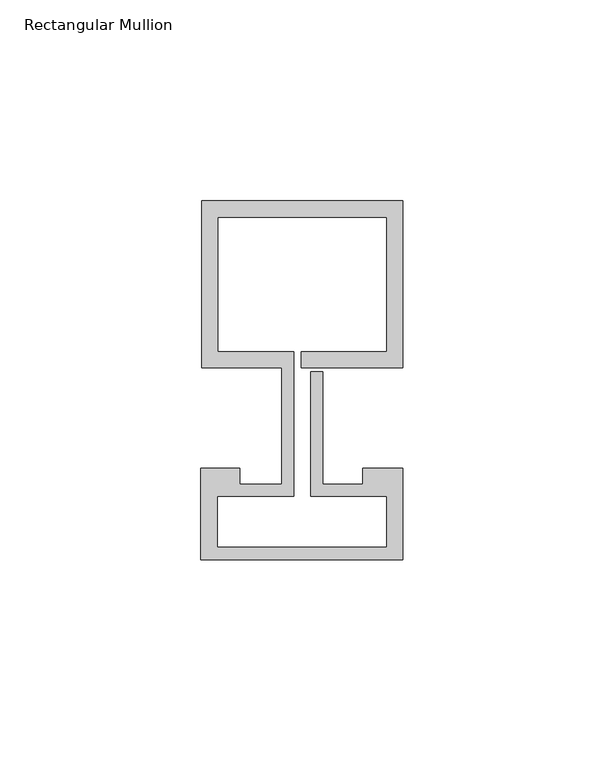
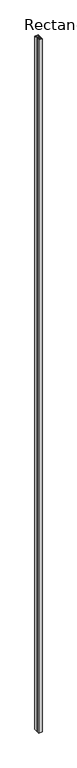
"""IFC4 building model written with IfcOpenShell, lengths in millimetres: member geometry, Rectangular Mullion : Reynaers_CW-50_Mullion-Transom_Vertical_41.5mm_Facecap-02C."""

from ifc_helpers import new_model, si_unit, frame, origin, place, context, project, spatial, polyline, outline, extrude, source, transform, mapped, element, save


def rectangular_mullion_60bf5739(model_context):
    return source(origin(), model_context, "Body", "SweptSolid", [
        extrude(outline(polyline([(-24.8004059, 54.0), (25.1995941, 54.0), (25.1995941, 12.5), (0.0, 12.5), (0.0, 16.5), (21.1995941, 16.5), (21.1995941, 50.0), (-20.8004059, 50.0), (-20.8004059, 16.5), (-1.9004059, 16.5), (-1.9004059, -19.5), (-20.994845, -19.5), (-20.994845, -32.2191338), (21.1995941, -32.2191338), (21.1995941, -19.5), (2.2995941, -19.5), (2.2995941, 11.5), (5.2995941, 11.5), (5.2995941, -16.5), (15.2996495, -16.5), (15.2996495, -12.5), (25.1995941, -12.5), (25.1995941, -35.3), (-24.994845, -35.3), (-24.994845, -12.5), (-15.2996495, -12.5), (-15.2996495, -16.5), (-4.9004059, -16.5), (-4.9004059, 12.5), (-24.8004059, 12.5), (-24.8004059, 54.0)])), frame((0.0, 0.0, -10400.0), z_axis=(0.0, 0.0, 1.0), x_axis=(1.0, 0.0, 0.0)), (0.0, 0.0, 1.0), 10400.0),
    ])


if __name__ == "__main__":
    model = new_model("IFC4")
    model_context = context("Model", 3, world=origin())
    ifc_project = project(units=[si_unit("LENGTHUNIT", "METRE", prefix="MILLI")], contexts=[model_context])
    site = spatial("IfcSite", under=ifc_project)
    building = spatial("IfcBuilding", under=site)
    placement = place(None, origin())
    rectangular_mullion_shape = rectangular_mullion_60bf5739(model_context)
    element("IfcMember", 1, ObjectType="Rectangular Mullion : Reynaers_CW-50_Mullion-Transom_Vertical_41.5mm_Facecap-02C", at=placement, inside=building, context=model_context, shape_type="MappedRepresentation", body=[
        mapped(rectangular_mullion_shape, transform((0.0, 0.0, 0.0), x_axis=(1.0, 0.0, 0.0), y_axis=(0.0, 1.0, 0.0), z_axis=(0.0, 0.0, 1.0))),
    ])
    save(model, "model.ifc")
